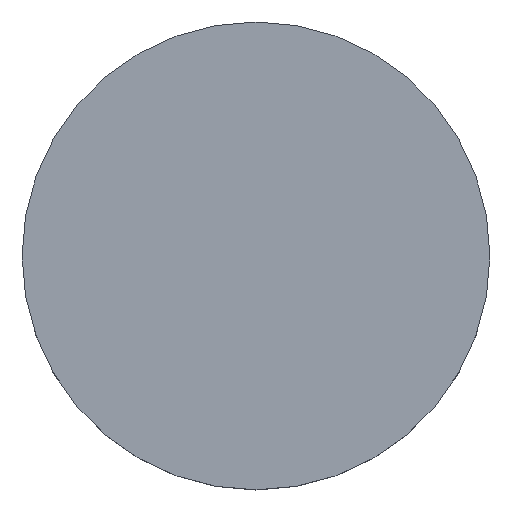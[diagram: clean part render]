
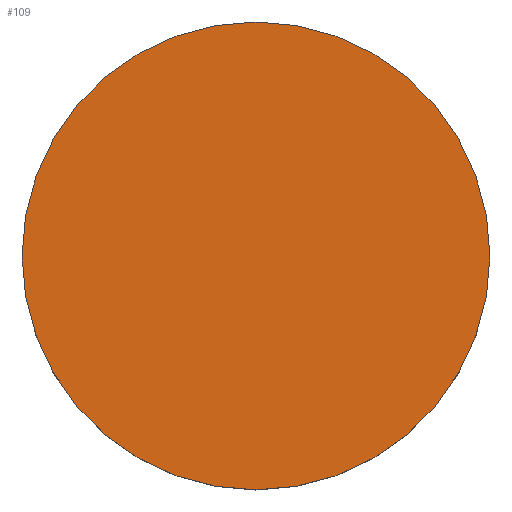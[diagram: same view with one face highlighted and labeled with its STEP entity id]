
A CAD part, top view. The second image highlights one B-rep face of the part: STEP entity #109.
In plain terms, the highlighted planar face has unit normal (0, 0, 1).
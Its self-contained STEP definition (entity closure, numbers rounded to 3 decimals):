
#24 = VERTEX_POINT('',#25);
#25 = CARTESIAN_POINT('',(45.,0.,60.));
#32 = CYLINDRICAL_SURFACE('',#33,45.);
#33 = AXIS2_PLACEMENT_3D('',#34,#35,#36);
#34 = CARTESIAN_POINT('',(0.,0.,45.));
#35 = DIRECTION('',(-0.,-0.,-1.));
#36 = DIRECTION('',(1.,0.,0.));
#51 = EDGE_CURVE('',#24,#24,#52,.T.);
#52 = SURFACE_CURVE('',#53,(#58,#65),.PCURVE_S1.);
#53 = CIRCLE('',#54,45.);
#54 = AXIS2_PLACEMENT_3D('',#55,#56,#57);
#55 = CARTESIAN_POINT('',(0.,0.,60.));
#56 = DIRECTION('',(0.,0.,1.));
#57 = DIRECTION('',(1.,0.,0.));
#58 = PCURVE('',#32,#59);
#59 = DEFINITIONAL_REPRESENTATION('',(#60),#64);
#60 = LINE('',#61,#62);
#61 = CARTESIAN_POINT('',(-0.,-15.));
#62 = VECTOR('',#63,1.);
#63 = DIRECTION('',(-1.,0.));
#64 = ( GEOMETRIC_REPRESENTATION_CONTEXT(2) 
PARAMETRIC_REPRESENTATION_CONTEXT() REPRESENTATION_CONTEXT('2D SPACE',''
  ) );
#65 = PCURVE('',#66,#71);
#66 = PLANE('',#67);
#67 = AXIS2_PLACEMENT_3D('',#68,#69,#70);
#68 = CARTESIAN_POINT('',(0.,0.,60.));
#69 = DIRECTION('',(0.,0.,1.));
#70 = DIRECTION('',(1.,0.,-0.));
#71 = DEFINITIONAL_REPRESENTATION('',(#72),#76);
#72 = CIRCLE('',#73,45.);
#73 = AXIS2_PLACEMENT_2D('',#74,#75);
#74 = CARTESIAN_POINT('',(0.,0.));
#75 = DIRECTION('',(1.,0.));
#76 = ( GEOMETRIC_REPRESENTATION_CONTEXT(2) 
PARAMETRIC_REPRESENTATION_CONTEXT() REPRESENTATION_CONTEXT('2D SPACE',''
  ) );
#109 = ADVANCED_FACE('',(#110),#66,.T.);
#110 = FACE_BOUND('',#111,.T.);
#111 = EDGE_LOOP('',(#112));
#112 = ORIENTED_EDGE('',*,*,#51,.T.);
